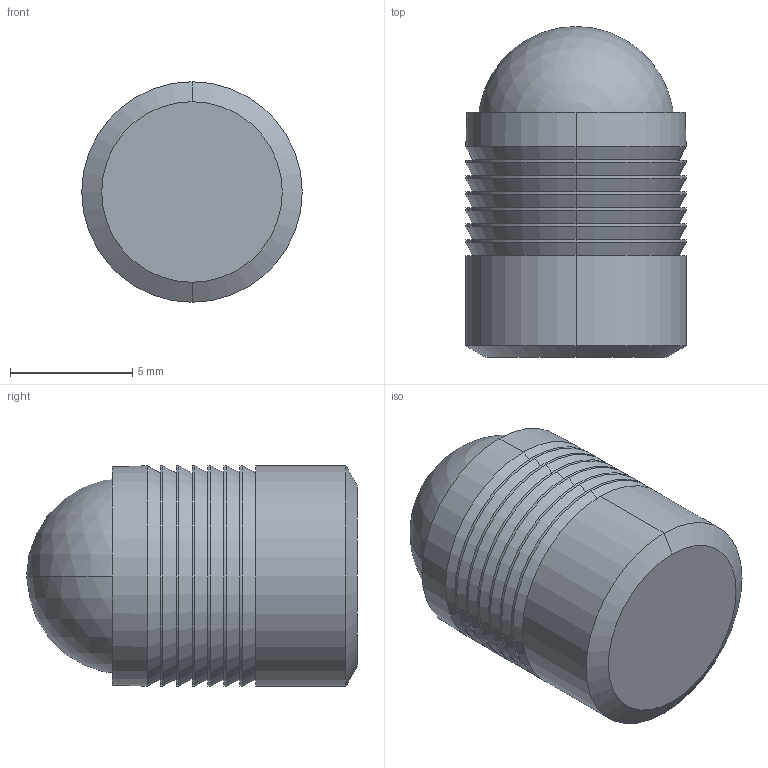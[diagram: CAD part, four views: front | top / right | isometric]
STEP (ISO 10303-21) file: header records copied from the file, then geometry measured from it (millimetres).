
FILE_DESCRIPTION (( 'STEP AP203' ), '1' );
FILE_NAME ('HC090.STEP', '2024-05-11T05:00:37', ( '' ), ( '' ), 'SwSTEP 2.0', 'SolidWorks 2013', '' );
FILE_SCHEMA (( 'CONFIG_CONTROL_DESIGN' ));
Length unit declared in the file: millimetre
Products named in the file (1): HC090
Bounding box: 9 x 13.5 x 9 mm (x, y, z)
Volume: 520.9 mm3; surface area: 847.3 mm2
Topology: 2 solids, 2 shells, 51 faces, 105 edges, 62 vertices
Faces by surface type: cone 22, cylinder 18, plane 9, sphere 2
Entity records: 1373 total; most frequent: DIRECTION 260, CARTESIAN_POINT 209, ORIENTED_EDGE 196, AXIS2_PLACEMENT_3D 110, EDGE_CURVE 98, VERTEX_POINT 59, EDGE_LOOP 59, CIRCLE 58
